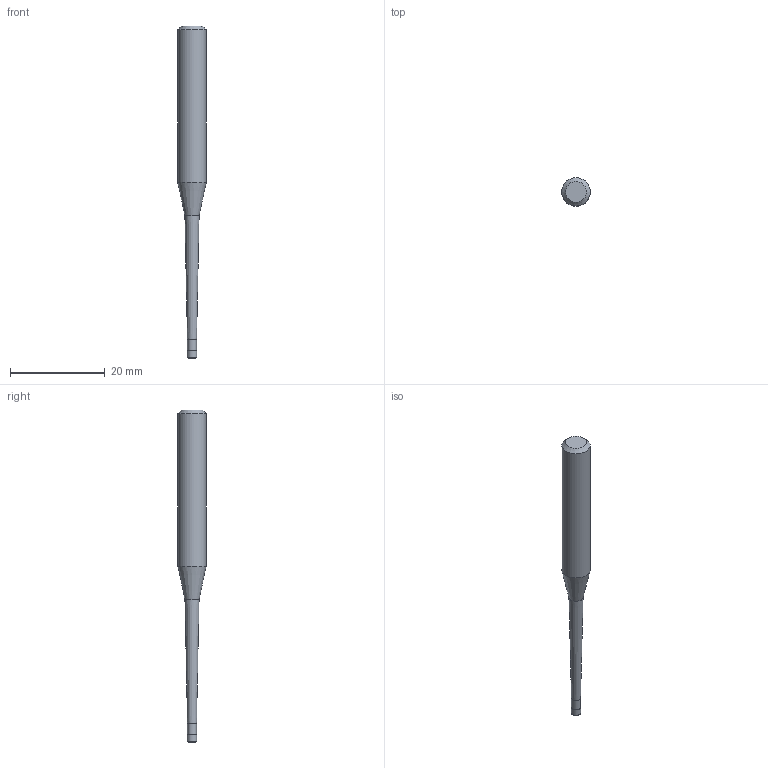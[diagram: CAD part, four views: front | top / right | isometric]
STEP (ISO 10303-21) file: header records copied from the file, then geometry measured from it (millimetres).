
FILE_DESCRIPTION((''),'2;1');
FILE_NAME('C:\Users\nsx150\AppData\Local\Temp\Mastercam 2021\YKS1SUSFZB\TEMP.step','2025-06-23T14:04:34',(''),(''),'STEP Write','Mastercam 2021 ... CNC Software, Inc.','');
FILE_SCHEMA(('AUTOMOTIVE_DESIGN'));
Length unit declared in the file: millimetre
Products named in the file (1): None
Bounding box: 6 x 6 x 70 mm (x, y, z)
Volume: 1178.8 mm3; surface area: 975.1 mm2
Topology: 2 solids, 2 shells, 11 faces, 16 edges, 9 vertices
Faces by surface type: plane 4, cylinder 3, cone 3, torus 1
Full cylindrical faces by diameter (mm): 1.92 x1, 2 x1, 6 x1
Entity records: 253 total; most frequent: DIRECTION 44, CARTESIAN_POINT 31, AXIS2_PLACEMENT_3D 22, ORIENTED_EDGE 18, EDGE_LOOP 18, STYLED_ITEM 14, ADVANCED_FACE 11, FACE_BOUND 11
